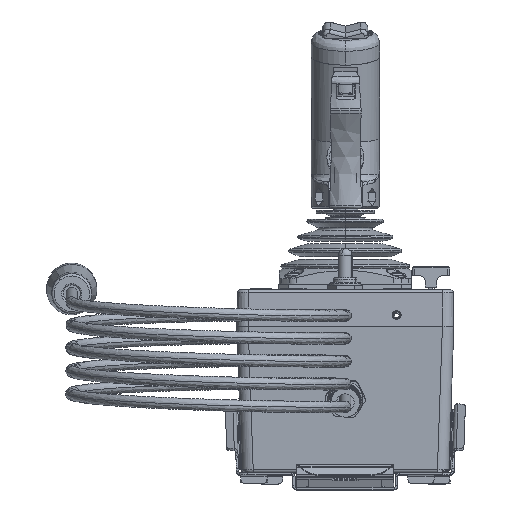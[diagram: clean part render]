
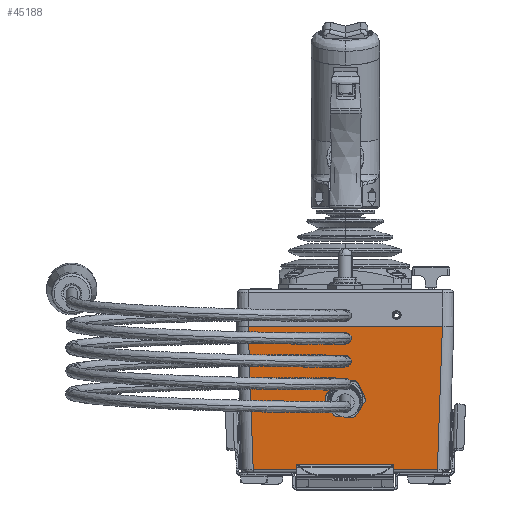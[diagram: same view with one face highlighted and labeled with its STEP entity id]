
A CAD part, top view. The second image highlights one B-rep face of the part: STEP entity #45188.
In plain terms, the highlighted planar face has unit normal (0, -0.035, 0.999).
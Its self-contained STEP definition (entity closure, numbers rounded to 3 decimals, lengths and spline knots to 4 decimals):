
#10503 = ORIENTED_EDGE ( 'NONE', *, *, #42503, .F. ) ;
#10505 = ORIENTED_EDGE ( 'NONE', *, *, #42505, .F. ) ;
#10507 = ORIENTED_EDGE ( 'NONE', *, *, #42499, .T. ) ;
#10509 = ORIENTED_EDGE ( 'NONE', *, *, #42485, .T. ) ;
#10511 = ORIENTED_EDGE ( 'NONE', *, *, #42507, .T. ) ;
#10513 = ORIENTED_EDGE ( 'NONE', *, *, #42509, .T. ) ;
#12121 = FACE_BOUND ( 'NONE', #108875, .T. ) ;
#12141 = FACE_OUTER_BOUND ( 'NONE', #96248, .T. ) ;
#34801 = VERTEX_POINT ( 'NONE', #99421 ) ;
#34803 = VERTEX_POINT ( 'NONE', #99423 ) ;
#34805 = VERTEX_POINT ( 'NONE', #99425 ) ;
#34807 = VERTEX_POINT ( 'NONE', #99427 ) ;
#34808 = VERTEX_POINT ( 'NONE', #99428 ) ;
#34836 = VERTEX_POINT ( 'NONE', #99456 ) ;
#42485 = EDGE_CURVE ( 'NONE', #34836, #34808, #46102, .T. ) ;
#42499 = EDGE_CURVE ( 'NONE', #34803, #34836, #46127, .T. ) ;
#42503 = EDGE_CURVE ( 'NONE', #34805, #34807, #46133, .T. ) ;
#42505 = EDGE_CURVE ( 'NONE', #34807, #34805, #46136, .T. ) ;
#42507 = EDGE_CURVE ( 'NONE', #34808, #34801, #46139, .T. ) ;
#42509 = EDGE_CURVE ( 'NONE', #34801, #34803, #46143, .T. ) ;
#45188 = ADVANCED_FACE ( 'NONE', ( #12121, #12141 ), #83637, .T. ) ;
#46102 = LINE ( 'NONE', #54318, #46105 ) ;
#46105 = VECTOR ( 'NONE', #54320, 39.3701 ) ;
#46127 = LINE ( 'NONE', #54349, #46130 ) ;
#46130 = VECTOR ( 'NONE', #54350, 39.3701 ) ;
#46133 = CIRCLE ( 'NONE', #62612, 0.365 ) ;
#46136 = CIRCLE ( 'NONE', #62613, 0.365 ) ;
#46139 = LINE ( 'NONE', #54369, #46142 ) ;
#46142 = VECTOR ( 'NONE', #54370, 39.3701 ) ;
#46143 = LINE ( 'NONE', #54373, #46146 ) ;
#46146 = VECTOR ( 'NONE', #54374, 39.3701 ) ;
#54318 = CARTESIAN_POINT ( 'NONE',  ( -0.3616, -3.8997, -0.1096 ) ) ;
#54320 = DIRECTION ( 'NONE',  ( 1., 0., 0. ) ) ;
#54349 = CARTESIAN_POINT ( 'NONE',  ( -4.4947, -0.9168, -0.0055 ) ) ;
#54350 = DIRECTION ( 'NONE',  ( 0.035, -0.999, -0.035 ) ) ;
#54361 = CARTESIAN_POINT ( 'NONE',  ( -2.375, -2.3298, -0.0548 ) ) ;
#54362 = DIRECTION ( 'NONE',  ( 0., -0.035, 0.999 ) ) ;
#54363 = DIRECTION ( 'NONE',  ( 0., 0.999, 0.035 ) ) ;
#54366 = CARTESIAN_POINT ( 'NONE',  ( -2.375, -2.3298, -0.0548 ) ) ;
#54367 = DIRECTION ( 'NONE',  ( 0., -0.035, 0.999 ) ) ;
#54368 = DIRECTION ( 'NONE',  ( 0., 0.999, 0.035 ) ) ;
#54369 = CARTESIAN_POINT ( 'NONE',  ( -0.2495, -0.7513, 0.0003 ) ) ;
#54370 = DIRECTION ( 'NONE',  ( 0.035, 0.999, 0.035 ) ) ;
#54373 = CARTESIAN_POINT ( 'NONE',  ( 0., -0.76, 0. ) ) ;
#54374 = DIRECTION ( 'NONE',  ( -1., 0., 0. ) ) ;
#54826 = AXIS2_PLACEMENT_3D ( 'NONE', #83623, #83641, #83642 ) ;
#62612 = AXIS2_PLACEMENT_3D ( 'NONE', #54361, #54362, #54363 ) ;
#62613 = AXIS2_PLACEMENT_3D ( 'NONE', #54366, #54367, #54368 ) ;
#83623 = CARTESIAN_POINT ( 'NONE',  ( 0., -0.76, 0. ) ) ;
#83637 = PLANE ( 'NONE',  #54826 ) ;
#83641 = DIRECTION ( 'NONE',  ( 0., -0.035, 0.999 ) ) ;
#83642 = DIRECTION ( 'NONE',  ( 0., 0.999, 0.035 ) ) ;
#96248 = EDGE_LOOP ( 'NONE', ( #10507, #10509, #10511, #10513 ) ) ;
#99421 = CARTESIAN_POINT ( 'NONE',  ( -0.2498, -0.76, 0. ) ) ;
#99423 = CARTESIAN_POINT ( 'NONE',  ( -4.5002, -0.76, 0. ) ) ;
#99425 = CARTESIAN_POINT ( 'NONE',  ( -2.375, -1.9651, -0.0421 ) ) ;
#99427 = CARTESIAN_POINT ( 'NONE',  ( -2.375, -2.6946, -0.0676 ) ) ;
#99428 = CARTESIAN_POINT ( 'NONE',  ( -0.3595, -3.8997, -0.1096 ) ) ;
#99456 = CARTESIAN_POINT ( 'NONE',  ( -4.3905, -3.8997, -0.1096 ) ) ;
#108875 = EDGE_LOOP ( 'NONE', ( #10503, #10505 ) ) ;
